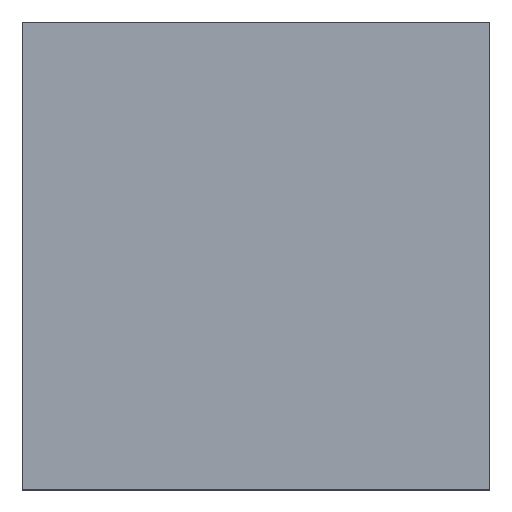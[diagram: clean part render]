
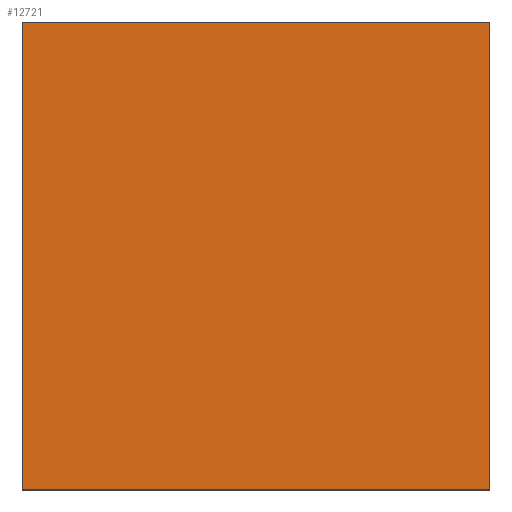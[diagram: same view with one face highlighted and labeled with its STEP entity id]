
A CAD part, top view. The second image highlights one B-rep face of the part: STEP entity #12721.
In plain terms, the highlighted planar face has unit normal (0, 0, 1).
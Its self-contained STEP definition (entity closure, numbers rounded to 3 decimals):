
#12682=CARTESIAN_POINT('',(0.,0.,20.));
#12683=DIRECTION('',(1.,0.,0.));
#12684=DIRECTION('',(0.,0.,1.));
#12685=AXIS2_PLACEMENT_3D('',#12682,#12684,#12683);
#12686=PLANE('',#12685);
#12687=CARTESIAN_POINT('',(548.5,-548.5,20.));
#12688=VERTEX_POINT('',#12687);
#12689=CARTESIAN_POINT('',(548.5,548.5,20.));
#12690=VERTEX_POINT('',#12689);
#12691=CARTESIAN_POINT('',(548.5,-548.5,20.));
#12692=DIRECTION('',(0.,1.,0.));
#12693=VECTOR('',#12692,1097.);
#12694=LINE('',#12691,#12693);
#12695=EDGE_CURVE('',#12688,#12690,#12694,.T.);
#12696=ORIENTED_EDGE('E118',*,*,#12695,.T.);
#12697=CARTESIAN_POINT('',(-548.5,548.5,20.));
#12698=VERTEX_POINT('',#12697);
#12699=CARTESIAN_POINT('',(548.5,548.5,20.));
#12700=DIRECTION('',(-1.,0.,0.));
#12701=VECTOR('',#12700,1097.);
#12702=LINE('',#12699,#12701);
#12703=EDGE_CURVE('',#12690,#12698,#12702,.T.);
#12704=ORIENTED_EDGE('E119',*,*,#12703,.T.);
#12705=CARTESIAN_POINT('',(-548.5,-548.5,20.));
#12706=VERTEX_POINT('',#12705);
#12707=CARTESIAN_POINT('',(-548.5,548.5,20.));
#12708=DIRECTION('',(0.,-1.,0.));
#12709=VECTOR('',#12708,1097.);
#12710=LINE('',#12707,#12709);
#12711=EDGE_CURVE('',#12698,#12706,#12710,.T.);
#12712=ORIENTED_EDGE('E120',*,*,#12711,.T.);
#12713=CARTESIAN_POINT('',(-548.5,-548.5,20.));
#12714=DIRECTION('',(1.,0.,0.));
#12715=VECTOR('',#12714,1097.);
#12716=LINE('',#12713,#12715);
#12717=EDGE_CURVE('',#12706,#12688,#12716,.T.);
#12718=ORIENTED_EDGE('E117',*,*,#12717,.T.);
#12719=EDGE_LOOP('',(#12696,#12704,#12712,#12718));
#12720=FACE_OUTER_BOUND('',#12719,.T.);
#12721=ADVANCED_FACE('F2',(#12720),#12686,.T.);
